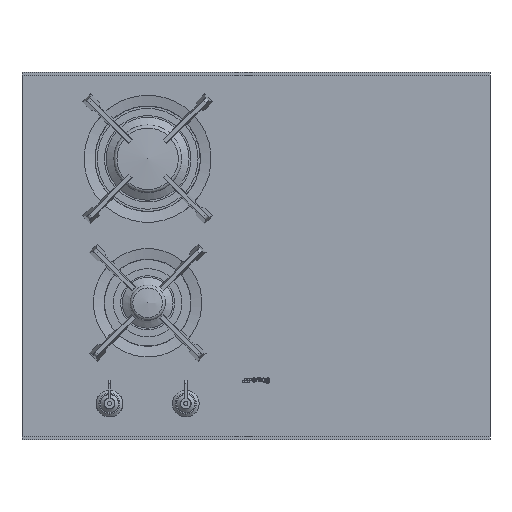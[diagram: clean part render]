
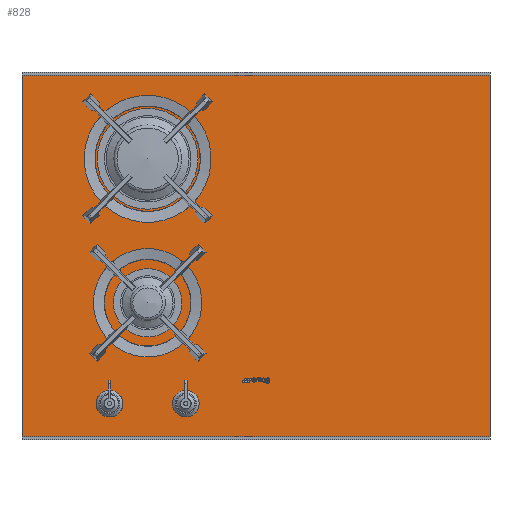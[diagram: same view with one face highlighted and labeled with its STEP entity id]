
A CAD part, top view. The second image highlights one B-rep face of the part: STEP entity #828.
In plain terms, the highlighted planar face has unit normal (0, 0, 1).
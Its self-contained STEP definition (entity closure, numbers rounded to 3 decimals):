
#535=FACE_BOUND('',#1756,.T.);
#536=FACE_BOUND('',#1757,.T.);
#537=FACE_BOUND('',#1758,.T.);
#706=CIRCLE('',#6370,10.);
#707=CIRCLE('',#6371,10.);
#828=ADVANCED_FACE('',(#535,#536,#537),#1204,.T.);
#1204=PLANE('',#6372);
#1756=EDGE_LOOP('',(#2234));
#1757=EDGE_LOOP('',(#2235));
#1758=EDGE_LOOP('',(#2236,#2237,#2238,#2239));
#2234=ORIENTED_EDGE('',*,*,#4412,.F.);
#2235=ORIENTED_EDGE('',*,*,#4413,.F.);
#2236=ORIENTED_EDGE('',*,*,#4402,.T.);
#2237=ORIENTED_EDGE('',*,*,#4406,.T.);
#2238=ORIENTED_EDGE('',*,*,#4409,.T.);
#2239=ORIENTED_EDGE('',*,*,#4411,.T.);
#3836=VERTEX_POINT('',#8586);
#3837=VERTEX_POINT('',#8588);
#3839=VERTEX_POINT('',#8594);
#3841=VERTEX_POINT('',#8600);
#3842=VERTEX_POINT('',#8607);
#3843=VERTEX_POINT('',#8609);
#4402=EDGE_CURVE('',#3837,#3836,#5210,.T.);
#4406=EDGE_CURVE('',#3836,#3839,#5214,.T.);
#4409=EDGE_CURVE('',#3839,#3841,#5217,.T.);
#4411=EDGE_CURVE('',#3841,#3837,#5219,.T.);
#4412=EDGE_CURVE('',#3842,#3842,#706,.T.);
#4413=EDGE_CURVE('',#3843,#3843,#707,.T.);
#5210=LINE('',#8587,#5783);
#5214=LINE('',#8595,#5787);
#5217=LINE('',#8601,#5790);
#5219=LINE('',#8604,#5792);
#5783=VECTOR('',#6911,1.);
#5787=VECTOR('',#6917,1.);
#5790=VECTOR('',#6922,1.);
#5792=VECTOR('',#6926,1.);
#6370=AXIS2_PLACEMENT_3D('',#8606,#6929,#6930);
#6371=AXIS2_PLACEMENT_3D('',#8608,#6931,#6932);
#6372=AXIS2_PLACEMENT_3D('',#8610,#6933,#6934);
#6911=DIRECTION('',(0.,-1.,0.));
#6917=DIRECTION('',(1.,0.,0.));
#6922=DIRECTION('',(0.,1.,0.));
#6926=DIRECTION('',(-1.,0.,0.));
#6929=DIRECTION('',(0.,0.,1.));
#6930=DIRECTION('',(1.,0.,0.));
#6931=DIRECTION('',(0.,0.,1.));
#6932=DIRECTION('',(1.,0.,0.));
#6933=DIRECTION('',(0.,0.,1.));
#6934=DIRECTION('',(1.,0.,0.));
#8586=CARTESIAN_POINT('',(-325.,-124.25,50.5));
#8587=CARTESIAN_POINT('',(-325.,377.75,50.5));
#8588=CARTESIAN_POINT('',(-325.,377.75,50.5));
#8594=CARTESIAN_POINT('',(325.,-124.25,50.5));
#8595=CARTESIAN_POINT('',(-325.,-124.25,50.5));
#8600=CARTESIAN_POINT('',(325.,377.75,50.5));
#8601=CARTESIAN_POINT('',(325.,-124.25,50.5));
#8604=CARTESIAN_POINT('',(325.,377.75,50.5));
#8606=CARTESIAN_POINT('',(-97.5,-78.25,50.5));
#8607=CARTESIAN_POINT('',(-87.5,-78.25,50.5));
#8608=CARTESIAN_POINT('',(-203.5,-78.25,50.5));
#8609=CARTESIAN_POINT('',(-193.5,-78.25,50.5));
#8610=CARTESIAN_POINT('',(0.,-124.25,50.5));
